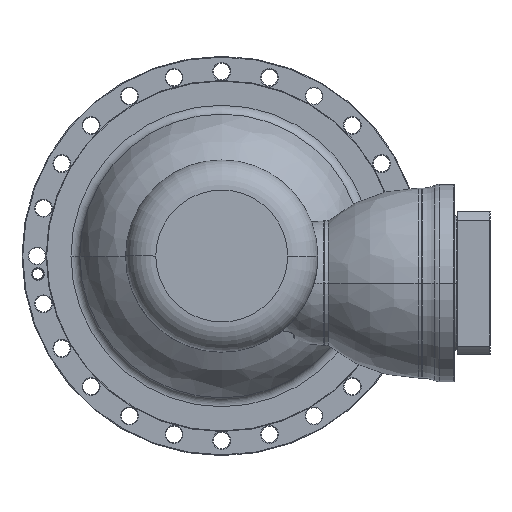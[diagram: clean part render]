
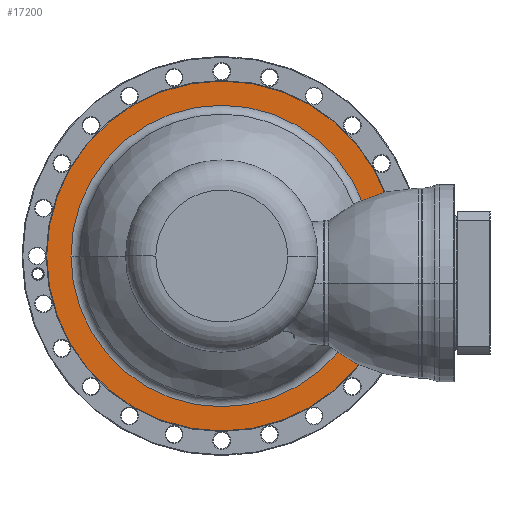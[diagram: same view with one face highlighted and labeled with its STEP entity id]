
A CAD part, left-side view. The second image highlights one B-rep face of the part: STEP entity #17200.
In plain terms, the highlighted planar face has unit normal (-1, 0, 0) as drawn and (1, 0, 0) by its records, which use the part's own axes.
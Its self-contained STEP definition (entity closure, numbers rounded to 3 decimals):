
#16671=CARTESIAN_POINT('',(-137.5,0.,0.));
#16672=DIRECTION('',(-1.,0.,0.));
#16673=DIRECTION('',(0.,-1.,0.));
#16674=AXIS2_PLACEMENT_3D('',#16671,#16672,#16673);
#16676=CARTESIAN_POINT('',(-137.5,0.,0.));
#16677=DIRECTION('',(-1.,0.,0.));
#16678=DIRECTION('',(0.,1.,0.));
#16679=AXIS2_PLACEMENT_3D('',#16676,#16677,#16678);
#16681=CARTESIAN_POINT('',(-137.5,0.,0.));
#16682=DIRECTION('',(1.,0.,0.));
#16683=DIRECTION('',(0.,-1.,0.));
#16684=AXIS2_PLACEMENT_3D('',#16681,#16682,#16683);
#16686=CARTESIAN_POINT('',(-137.5,0.,0.));
#16687=DIRECTION('',(1.,0.,0.));
#16688=DIRECTION('',(0.,1.,0.));
#16689=AXIS2_PLACEMENT_3D('',#16686,#16687,#16688);
#16918=CARTESIAN_POINT('',(-137.5,-232.2,0.));
#16919=CARTESIAN_POINT('',(-137.5,232.2,0.));
#16920=VERTEX_POINT('',#16918);
#16921=VERTEX_POINT('',#16919);
#16966=CARTESIAN_POINT('',(-137.5,-200.055,0.));
#16967=CARTESIAN_POINT('',(-137.5,200.055,0.));
#16968=VERTEX_POINT('',#16966);
#16969=VERTEX_POINT('',#16967);
#17184=CARTESIAN_POINT('',(-137.5,0.,0.));
#17185=DIRECTION('',(1.,0.,0.));
#17186=DIRECTION('',(0.,-1.,0.));
#17187=AXIS2_PLACEMENT_3D('',#17184,#17185,#17186);
#17188=PLANE('',#17187);
#17190=ORIENTED_EDGE('',*,*,#17189,.T.);
#17192=ORIENTED_EDGE('',*,*,#17191,.T.);
#17193=EDGE_LOOP('',(#17190,#17192));
#17194=FACE_OUTER_BOUND('',#17193,.F.);
#17195=ORIENTED_EDGE('',*,*,#17174,.T.);
#17197=ORIENTED_EDGE('',*,*,#17196,.T.);
#17198=EDGE_LOOP('',(#17195,#17197));
#17199=FACE_BOUND('',#17198,.F.);
#17200=ADVANCED_FACE('',(#17194,#17199),#17188,.T.);
#16675=CIRCLE('',#16674,232.2);
#16680=CIRCLE('',#16679,232.2);
#16685=CIRCLE('',#16684,200.055);
#16690=CIRCLE('',#16689,200.055);
#17174=EDGE_CURVE('',#16968,#16969,#16685,.T.);
#17189=EDGE_CURVE('',#16920,#16921,#16675,.T.);
#17191=EDGE_CURVE('',#16921,#16920,#16680,.T.);
#17196=EDGE_CURVE('',#16969,#16968,#16690,.T.);
